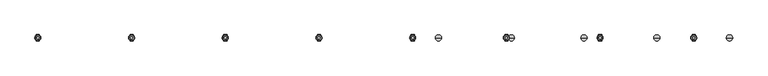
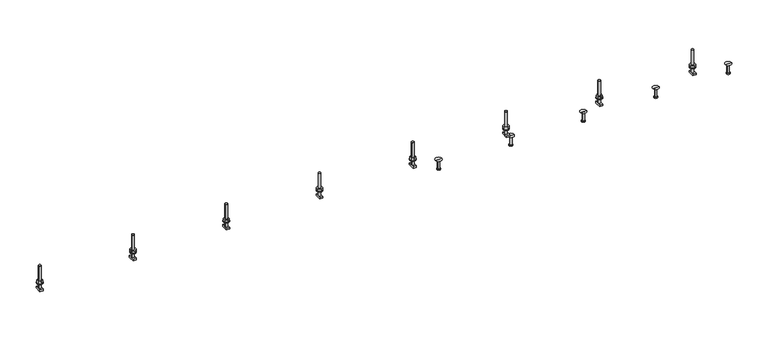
"""IFC4 building model written with IfcOpenShell, lengths in millimetres: fastener geometry, JTA-K JORDAHL® AnchorChannels : JTA-K L=3000 mm."""

from ifc_helpers import new_model, si_unit, point, frame, frame_2d, origin, place, context, project, spatial, polyline, circle_curve, trimmed, segment, composite_curve, outline, extrude, source, transform, mapped, element, save
from ifc_brep_helpers import plane_surface, cylinder_surface, revolved_surface, advanced_brep


def fastener_f9462707(model_context):
    return source(origin(), model_context, "Body", "SolidModel", [
        extrude(outline(polyline([(2608.3333333, 9.2376043), (2616.3333333, 4.6188022), (2616.3333333, -4.6188022), (2608.3333333, -9.2376043), (2600.3333333, -4.6188022), (2600.3333333, 4.6188022), (2608.3333333, 9.2376043)]), holes=[composite_curve([segment(trimmed(circle_curve(frame_2d((2608.3333333, 0.0)), 4.0), [point((2604.3333333, 0.0))], [point((2612.3333333, 0.0))], True, "CARTESIAN"), True, "CONTINUOUS"), segment(trimmed(circle_curve(frame_2d((2608.3333333, 0.0)), 4.0), [point((2612.3333333, 0.0))], [point((2604.3333333, 0.0))], True, "CARTESIAN"), True, "CONTINUOUS")], self_intersect=False)]), frame((0.0, 0.0, 17.0), z_axis=(0.0, 0.0, 1.0), x_axis=(1.0, 0.0, 0.0)), (0.0, 0.0, 1.0), 8.4),
        extrude(outline(composite_curve([segment(trimmed(circle_curve(frame_2d((2608.3333333, 0.0)), 10.0), [point((2598.3333333, 0.0))], [point((2618.3333333, 0.0))], False, "CARTESIAN"), True, "CONTINUOUS"), segment(trimmed(circle_curve(frame_2d((2608.3333333, 0.0)), 10.0), [point((2618.3333333, 0.0))], [point((2598.3333333, 0.0))], False, "CARTESIAN"), True, "CONTINUOUS")], self_intersect=False), holes=[composite_curve([segment(trimmed(circle_curve(frame_2d((2608.3333333, 0.0)), 5.25), [point((2603.0833333, 0.0))], [point((2613.5833333, 0.0))], True, "CARTESIAN"), True, "CONTINUOUS"), segment(trimmed(circle_curve(frame_2d((2608.3333333, 0.0)), 5.25), [point((2613.5833333, 0.0))], [point((2603.0833333, 0.0))], True, "CARTESIAN"), True, "CONTINUOUS")], self_intersect=False)]), frame((0.0, 0.0, 15.0), z_axis=(0.0, 0.0, 1.0), x_axis=(1.0, 0.0, 0.0)), (0.0, 0.0, 1.0), 2.0),
        extrude(outline(polyline([(2291.6666667, 9.2376043), (2299.6666667, 4.6188022), (2299.6666667, -4.6188022), (2291.6666667, -9.2376043), (2283.6666667, -4.6188022), (2283.6666667, 4.6188022), (2291.6666667, 9.2376043)]), holes=[composite_curve([segment(trimmed(circle_curve(frame_2d((2291.6666667, 0.0)), 4.0), [point((2287.6666667, 0.0))], [point((2295.6666667, 0.0))], True, "CARTESIAN"), True, "CONTINUOUS"), segment(trimmed(circle_curve(frame_2d((2291.6666667, 0.0)), 4.0), [point((2295.6666667, 0.0))], [point((2287.6666667, 0.0))], True, "CARTESIAN"), True, "CONTINUOUS")], self_intersect=False)]), frame((0.0, 0.0, 17.0), z_axis=(0.0, 0.0, 1.0), x_axis=(1.0, 0.0, 0.0)), (0.0, 0.0, 1.0), 8.4),
        extrude(outline(composite_curve([segment(trimmed(circle_curve(frame_2d((2291.6666667, 0.0)), 10.0), [point((2281.6666667, 0.0))], [point((2301.6666667, 0.0))], False, "CARTESIAN"), True, "CONTINUOUS"), segment(trimmed(circle_curve(frame_2d((2291.6666667, 0.0)), 10.0), [point((2301.6666667, 0.0))], [point((2281.6666667, 0.0))], False, "CARTESIAN"), True, "CONTINUOUS")], self_intersect=False), holes=[composite_curve([segment(trimmed(circle_curve(frame_2d((2291.6666667, 0.0)), 5.25), [point((2286.4166667, 0.0))], [point((2296.9166667, 0.0))], True, "CARTESIAN"), True, "CONTINUOUS"), segment(trimmed(circle_curve(frame_2d((2291.6666667, 0.0)), 5.25), [point((2296.9166667, 0.0))], [point((2286.4166667, 0.0))], True, "CARTESIAN"), True, "CONTINUOUS")], self_intersect=False)]), frame((0.0, 0.0, 15.0), z_axis=(0.0, 0.0, 1.0), x_axis=(1.0, 0.0, 0.0)), (0.0, 0.0, 1.0), 2.0),
        extrude(outline(polyline([(1975.0, 9.2376043), (1983.0, 4.6188022), (1983.0, -4.6188022), (1975.0, -9.2376043), (1967.0, -4.6188022), (1967.0, 4.6188022), (1975.0, 9.2376043)]), holes=[composite_curve([segment(trimmed(circle_curve(frame_2d((1975.0, 0.0)), 4.0), [point((1971.0, 0.0))], [point((1979.0, 0.0))], True, "CARTESIAN"), True, "CONTINUOUS"), segment(trimmed(circle_curve(frame_2d((1975.0, 0.0)), 4.0), [point((1979.0, 0.0))], [point((1971.0, 0.0))], True, "CARTESIAN"), True, "CONTINUOUS")], self_intersect=False)]), frame((0.0, 0.0, 17.0), z_axis=(0.0, 0.0, 1.0), x_axis=(1.0, 0.0, 0.0)), (0.0, 0.0, 1.0), 8.4),
        extrude(outline(composite_curve([segment(trimmed(circle_curve(frame_2d((1975.0, 0.0)), 10.0), [point((1965.0, 0.0))], [point((1985.0, 0.0))], False, "CARTESIAN"), True, "CONTINUOUS"), segment(trimmed(circle_curve(frame_2d((1975.0, 0.0)), 10.0), [point((1985.0, 0.0))], [point((1965.0, 0.0))], False, "CARTESIAN"), True, "CONTINUOUS")], self_intersect=False), holes=[composite_curve([segment(trimmed(circle_curve(frame_2d((1975.0, 0.0)), 5.25), [point((1969.75, 0.0))], [point((1980.25, 0.0))], True, "CARTESIAN"), True, "CONTINUOUS"), segment(trimmed(circle_curve(frame_2d((1975.0, 0.0)), 5.25), [point((1980.25, 0.0))], [point((1969.75, 0.0))], True, "CARTESIAN"), True, "CONTINUOUS")], self_intersect=False)]), frame((0.0, 0.0, 15.0), z_axis=(0.0, 0.0, 1.0), x_axis=(1.0, 0.0, 0.0)), (0.0, 0.0, 1.0), 2.0),
        extrude(outline(polyline([(1658.3333333, 9.2376043), (1666.3333333, 4.6188022), (1666.3333333, -4.6188022), (1658.3333333, -9.2376043), (1650.3333333, -4.6188022), (1650.3333333, 4.6188022), (1658.3333333, 9.2376043)]), holes=[composite_curve([segment(trimmed(circle_curve(frame_2d((1658.3333333, 0.0)), 4.0), [point((1654.3333333, 0.0))], [point((1662.3333333, 0.0))], True, "CARTESIAN"), True, "CONTINUOUS"), segment(trimmed(circle_curve(frame_2d((1658.3333333, 0.0)), 4.0), [point((1662.3333333, 0.0))], [point((1654.3333333, 0.0))], True, "CARTESIAN"), True, "CONTINUOUS")], self_intersect=False)]), frame((0.0, 0.0, 17.0), z_axis=(0.0, 0.0, 1.0), x_axis=(1.0, 0.0, 0.0)), (0.0, 0.0, 1.0), 8.4),
        extrude(outline(composite_curve([segment(trimmed(circle_curve(frame_2d((1658.3333333, 0.0)), 10.0), [point((1648.3333333, 0.0))], [point((1668.3333333, 0.0))], False, "CARTESIAN"), True, "CONTINUOUS"), segment(trimmed(circle_curve(frame_2d((1658.3333333, 0.0)), 10.0), [point((1668.3333333, 0.0))], [point((1648.3333333, 0.0))], False, "CARTESIAN"), True, "CONTINUOUS")], self_intersect=False), holes=[composite_curve([segment(trimmed(circle_curve(frame_2d((1658.3333333, 0.0)), 5.25), [point((1653.0833333, 0.0))], [point((1663.5833333, 0.0))], True, "CARTESIAN"), True, "CONTINUOUS"), segment(trimmed(circle_curve(frame_2d((1658.3333333, 0.0)), 5.25), [point((1663.5833333, 0.0))], [point((1653.0833333, 0.0))], True, "CARTESIAN"), True, "CONTINUOUS")], self_intersect=False)]), frame((0.0, 0.0, 15.0), z_axis=(0.0, 0.0, 1.0), x_axis=(1.0, 0.0, 0.0)), (0.0, 0.0, 1.0), 2.0),
        extrude(outline(polyline([(1341.6666667, 9.2376043), (1349.6666667, 4.6188022), (1349.6666667, -4.6188022), (1341.6666667, -9.2376043), (1333.6666667, -4.6188022), (1333.6666667, 4.6188022), (1341.6666667, 9.2376043)]), holes=[composite_curve([segment(trimmed(circle_curve(frame_2d((1341.6666667, 0.0)), 4.0), [point((1337.6666667, 0.0))], [point((1345.6666667, 0.0))], True, "CARTESIAN"), True, "CONTINUOUS"), segment(trimmed(circle_curve(frame_2d((1341.6666667, 0.0)), 4.0), [point((1345.6666667, 0.0))], [point((1337.6666667, 0.0))], True, "CARTESIAN"), True, "CONTINUOUS")], self_intersect=False)]), frame((0.0, 0.0, 17.0), z_axis=(0.0, 0.0, 1.0), x_axis=(1.0, 0.0, 0.0)), (0.0, 0.0, 1.0), 8.4),
        extrude(outline(composite_curve([segment(trimmed(circle_curve(frame_2d((1341.6666667, 0.0)), 10.0), [point((1331.6666667, 0.0))], [point((1351.6666667, 0.0))], False, "CARTESIAN"), True, "CONTINUOUS"), segment(trimmed(circle_curve(frame_2d((1341.6666667, 0.0)), 10.0), [point((1351.6666667, 0.0))], [point((1331.6666667, 0.0))], False, "CARTESIAN"), True, "CONTINUOUS")], self_intersect=False), holes=[composite_curve([segment(trimmed(circle_curve(frame_2d((1341.6666667, 0.0)), 5.25), [point((1336.4166667, 0.0))], [point((1346.9166667, 0.0))], True, "CARTESIAN"), True, "CONTINUOUS"), segment(trimmed(circle_curve(frame_2d((1341.6666667, 0.0)), 5.25), [point((1346.9166667, 0.0))], [point((1336.4166667, 0.0))], True, "CARTESIAN"), True, "CONTINUOUS")], self_intersect=False)]), frame((0.0, 0.0, 15.0), z_axis=(0.0, 0.0, 1.0), x_axis=(1.0, 0.0, 0.0)), (0.0, 0.0, 1.0), 2.0),
        extrude(outline(polyline([(1025.0, 9.2376043), (1033.0, 4.6188022), (1033.0, -4.6188022), (1025.0, -9.2376043), (1017.0, -4.6188022), (1017.0, 4.6188022), (1025.0, 9.2376043)]), holes=[composite_curve([segment(trimmed(circle_curve(frame_2d((1025.0, 0.0)), 4.0), [point((1021.0, 0.0))], [point((1029.0, 0.0))], True, "CARTESIAN"), True, "CONTINUOUS"), segment(trimmed(circle_curve(frame_2d((1025.0, 0.0)), 4.0), [point((1029.0, 0.0))], [point((1021.0, 0.0))], True, "CARTESIAN"), True, "CONTINUOUS")], self_intersect=False)]), frame((0.0, 0.0, 17.0), z_axis=(0.0, 0.0, 1.0), x_axis=(1.0, 0.0, 0.0)), (0.0, 0.0, 1.0), 8.4),
        extrude(outline(composite_curve([segment(trimmed(circle_curve(frame_2d((1025.0, 0.0)), 10.0), [point((1015.0, 0.0))], [point((1035.0, 0.0))], False, "CARTESIAN"), True, "CONTINUOUS"), segment(trimmed(circle_curve(frame_2d((1025.0, 0.0)), 10.0), [point((1035.0, 0.0))], [point((1015.0, 0.0))], False, "CARTESIAN"), True, "CONTINUOUS")], self_intersect=False), holes=[composite_curve([segment(trimmed(circle_curve(frame_2d((1025.0, 0.0)), 5.25), [point((1019.75, 0.0))], [point((1030.25, 0.0))], True, "CARTESIAN"), True, "CONTINUOUS"), segment(trimmed(circle_curve(frame_2d((1025.0, 0.0)), 5.25), [point((1030.25, 0.0))], [point((1019.75, 0.0))], True, "CARTESIAN"), True, "CONTINUOUS")], self_intersect=False)]), frame((0.0, 0.0, 15.0), z_axis=(0.0, 0.0, 1.0), x_axis=(1.0, 0.0, 0.0)), (0.0, 0.0, 1.0), 2.0),
        extrude(outline(polyline([(708.3333333, 9.2376043), (716.3333333, 4.6188022), (716.3333333, -4.6188022), (708.3333333, -9.2376043), (700.3333333, -4.6188022), (700.3333333, 4.6188022), (708.3333333, 9.2376043)]), holes=[composite_curve([segment(trimmed(circle_curve(frame_2d((708.3333333, 0.0)), 4.0), [point((704.3333333, 0.0))], [point((712.3333333, 0.0))], True, "CARTESIAN"), True, "CONTINUOUS"), segment(trimmed(circle_curve(frame_2d((708.3333333, 0.0)), 4.0), [point((712.3333333, 0.0))], [point((704.3333333, 0.0))], True, "CARTESIAN"), True, "CONTINUOUS")], self_intersect=False)]), frame((0.0, 0.0, 17.0), z_axis=(0.0, 0.0, 1.0), x_axis=(1.0, 0.0, 0.0)), (0.0, 0.0, 1.0), 8.4),
        extrude(outline(composite_curve([segment(trimmed(circle_curve(frame_2d((708.3333333, 0.0)), 10.0), [point((698.3333333, 0.0))], [point((718.3333333, 0.0))], False, "CARTESIAN"), True, "CONTINUOUS"), segment(trimmed(circle_curve(frame_2d((708.3333333, 0.0)), 10.0), [point((718.3333333, 0.0))], [point((698.3333333, 0.0))], False, "CARTESIAN"), True, "CONTINUOUS")], self_intersect=False), holes=[composite_curve([segment(trimmed(circle_curve(frame_2d((708.3333333, 0.0)), 5.25), [point((703.0833333, 0.0))], [point((713.5833333, 0.0))], True, "CARTESIAN"), True, "CONTINUOUS"), segment(trimmed(circle_curve(frame_2d((708.3333333, 0.0)), 5.25), [point((713.5833333, 0.0))], [point((703.0833333, 0.0))], True, "CARTESIAN"), True, "CONTINUOUS")], self_intersect=False)]), frame((0.0, 0.0, 15.0), z_axis=(0.0, 0.0, 1.0), x_axis=(1.0, 0.0, 0.0)), (0.0, 0.0, 1.0), 2.0),
        extrude(outline(polyline([(391.6666667, 9.2376043), (399.6666667, 4.6188022), (399.6666667, -4.6188022), (391.6666667, -9.2376043), (383.6666667, -4.6188022), (383.6666667, 4.6188022), (391.6666667, 9.2376043)]), holes=[composite_curve([segment(trimmed(circle_curve(frame_2d((391.6666667, 0.0)), 4.0), [point((387.6666667, 0.0))], [point((395.6666667, 0.0))], True, "CARTESIAN"), True, "CONTINUOUS"), segment(trimmed(circle_curve(frame_2d((391.6666667, 0.0)), 4.0), [point((395.6666667, 0.0))], [point((387.6666667, 0.0))], True, "CARTESIAN"), True, "CONTINUOUS")], self_intersect=False)]), frame((0.0, 0.0, 17.0), z_axis=(0.0, 0.0, 1.0), x_axis=(1.0, 0.0, 0.0)), (0.0, 0.0, 1.0), 8.4),
        extrude(outline(composite_curve([segment(trimmed(circle_curve(frame_2d((391.6666667, 0.0)), 10.0), [point((381.6666667, 0.0))], [point((401.6666667, 0.0))], False, "CARTESIAN"), True, "CONTINUOUS"), segment(trimmed(circle_curve(frame_2d((391.6666667, 0.0)), 10.0), [point((401.6666667, 0.0))], [point((381.6666667, 0.0))], False, "CARTESIAN"), True, "CONTINUOUS")], self_intersect=False), holes=[composite_curve([segment(trimmed(circle_curve(frame_2d((391.6666667, 0.0)), 5.25), [point((386.4166667, 0.0))], [point((396.9166667, 0.0))], True, "CARTESIAN"), True, "CONTINUOUS"), segment(trimmed(circle_curve(frame_2d((391.6666667, 0.0)), 5.25), [point((396.9166667, 0.0))], [point((386.4166667, 0.0))], True, "CARTESIAN"), True, "CONTINUOUS")], self_intersect=False)]), frame((0.0, 0.0, 15.0), z_axis=(0.0, 0.0, 1.0), x_axis=(1.0, 0.0, 0.0)), (0.0, 0.0, 1.0), 2.0),
        advanced_brep(
        [(2613.8333333, 11.0, -2.3), (2613.8333333, -11.0, -2.3), (2613.8333333, -11.0, -8.3), (2613.8333333, 11.0, -8.3), (2602.8333333, 11.0, -2.3), (2602.8333333, 11.0, -8.3), (2602.8333333, -11.0, -8.3), (2602.8333333, -11.0, -2.3), (2612.3333333, 0.0, -2.3), (2604.3333333, 0.0, -2.3), (2604.3333333, 0.0, 77.7), (2612.3333333, 0.0, 77.7)],
        [
            (0, 1),
            (1, 2),
            (2, 3),
            (3, 0),
            (4, 5),
            (5, 6),
            (6, 7),
            (7, 4),
            (0, 4),
            (7, 1),
            (8, 9, circle_curve(frame((2608.3333333, 0.0, -2.3), z_axis=(0.0, 0.0, -1.0), x_axis=(1.0, 0.0, 0.0)), 4.0)),
            (9, 8, circle_curve(frame((2608.3333333, 0.0, -2.3), z_axis=(0.0, 0.0, -1.0), x_axis=(1.0, 0.0, 0.0)), 4.0)),
            (6, 2),
            (5, 3),
            (10, 11, circle_curve(frame((2608.3333333, 0.0, 77.7), z_axis=(0.0, 0.0, 1.0), x_axis=(1.0, 0.0, 0.0)), 4.0)),
            (11, 10, circle_curve(frame((2608.3333333, 0.0, 77.7), z_axis=(0.0, 0.0, 1.0), x_axis=(1.0, 0.0, 0.0)), 4.0)),
            (10, 9),
            (8, 11),
        ],
        [
            plane_surface(frame((2613.8333333, -11.0, -2.3), z_axis=(1.0, 0.0, 0.0), x_axis=(0.0, -1.0, 0.0))),
            plane_surface(frame((2602.8333333, -11.0, -2.3), z_axis=(-1.0, 0.0, 0.0), x_axis=(0.0, 1.0, 0.0))),
            plane_surface(frame((2613.8333333, 11.0, -2.3), z_axis=(0.0, 0.0, 1.0), x_axis=(-1.0, 0.0, 0.0))),
            plane_surface(frame((2613.8333333, -11.0, -2.3), z_axis=(0.0, -1.0, 0.0), x_axis=(-1.0, 0.0, 0.0))),
            plane_surface(frame((2613.8333333, -11.0, -8.3), z_axis=(0.0, 0.0, -1.0), x_axis=(-1.0, 0.0, 0.0))),
            plane_surface(frame((2613.8333333, 11.0, -8.3), z_axis=(0.0, 1.0, 0.0), x_axis=(-1.0, 0.0, 0.0))),
            plane_surface(frame((2612.3333333, 0.0, 77.7), z_axis=(0.0, 0.0, 1.0), x_axis=(0.0, 1.0, 0.0))),
            cylinder_surface(frame((2608.3333333, 0.0, -2.3), z_axis=(0.0, 0.0, 1.0), x_axis=(1.0, 0.0, 0.0)), 4.0),
        ],
        [
            (0, [[1, 2, 3, 4]]),
            (1, [[5, 6, 7, 8]]),
            (2, [[-1, 9, -8, 10], [11, 12]]),
            (3, [[-2, -10, -7, 13]]),
            (4, [[-3, -13, -6, 14]]),
            (5, [[-4, -14, -5, -9]]),
            (6, [[15, 16]]),
            (7, [[-15, 17, -11, 18]]),
            (7, [[-16, -18, -12, -17]]),
        ],
    ),
        advanced_brep(
        [(2297.1666667, 11.0, -2.3), (2297.1666667, -11.0, -2.3), (2297.1666667, -11.0, -8.3), (2297.1666667, 11.0, -8.3), (2286.1666667, 11.0, -2.3), (2286.1666667, 11.0, -8.3), (2286.1666667, -11.0, -8.3), (2286.1666667, -11.0, -2.3), (2295.6666667, 0.0, -2.3), (2287.6666667, 0.0, -2.3), (2287.6666667, 0.0, 77.7), (2295.6666667, 0.0, 77.7)],
        [
            (0, 1),
            (1, 2),
            (2, 3),
            (3, 0),
            (4, 5),
            (5, 6),
            (6, 7),
            (7, 4),
            (0, 4),
            (7, 1),
            (8, 9, circle_curve(frame((2291.6666667, 0.0, -2.3), z_axis=(0.0, 0.0, -1.0), x_axis=(1.0, 0.0, 0.0)), 4.0)),
            (9, 8, circle_curve(frame((2291.6666667, 0.0, -2.3), z_axis=(0.0, 0.0, -1.0), x_axis=(1.0, 0.0, 0.0)), 4.0)),
            (6, 2),
            (5, 3),
            (10, 11, circle_curve(frame((2291.6666667, 0.0, 77.7), z_axis=(0.0, 0.0, 1.0), x_axis=(1.0, 0.0, 0.0)), 4.0)),
            (11, 10, circle_curve(frame((2291.6666667, 0.0, 77.7), z_axis=(0.0, 0.0, 1.0), x_axis=(1.0, 0.0, 0.0)), 4.0)),
            (10, 9),
            (8, 11),
        ],
        [
            plane_surface(frame((2297.1666667, -11.0, -2.3), z_axis=(1.0, 0.0, 0.0), x_axis=(0.0, -1.0, 0.0))),
            plane_surface(frame((2286.1666667, -11.0, -2.3), z_axis=(-1.0, 0.0, 0.0), x_axis=(0.0, 1.0, 0.0))),
            plane_surface(frame((2297.1666667, 11.0, -2.3), z_axis=(0.0, 0.0, 1.0), x_axis=(-1.0, 0.0, 0.0))),
            plane_surface(frame((2297.1666667, -11.0, -2.3), z_axis=(0.0, -1.0, 0.0), x_axis=(-1.0, 0.0, 0.0))),
            plane_surface(frame((2297.1666667, -11.0, -8.3), z_axis=(0.0, 0.0, -1.0), x_axis=(-1.0, 0.0, 0.0))),
            plane_surface(frame((2297.1666667, 11.0, -8.3), z_axis=(0.0, 1.0, 0.0), x_axis=(-1.0, 0.0, 0.0))),
            plane_surface(frame((2295.6666667, 0.0, 77.7), z_axis=(0.0, 0.0, 1.0), x_axis=(0.0, 1.0, 0.0))),
            cylinder_surface(frame((2291.6666667, 0.0, -2.3), z_axis=(0.0, 0.0, 1.0), x_axis=(1.0, 0.0, 0.0)), 4.0),
        ],
        [
            (0, [[1, 2, 3, 4]]),
            (1, [[5, 6, 7, 8]]),
            (2, [[-1, 9, -8, 10], [11, 12]]),
            (3, [[-2, -10, -7, 13]]),
            (4, [[-3, -13, -6, 14]]),
            (5, [[-4, -14, -5, -9]]),
            (6, [[15, 16]]),
            (7, [[-15, 17, -11, 18]]),
            (7, [[-16, -18, -12, -17]]),
        ],
    ),
        advanced_brep(
        [(1980.5, 11.0, -2.3), (1980.5, -11.0, -2.3), (1980.5, -11.0, -8.3), (1980.5, 11.0, -8.3), (1969.5, 11.0, -2.3), (1969.5, 11.0, -8.3), (1969.5, -11.0, -8.3), (1969.5, -11.0, -2.3), (1979.0, 0.0, -2.3), (1971.0, 0.0, -2.3), (1971.0, 0.0, 77.7), (1979.0, 0.0, 77.7)],
        [
            (0, 1),
            (1, 2),
            (2, 3),
            (3, 0),
            (4, 5),
            (5, 6),
            (6, 7),
            (7, 4),
            (0, 4),
            (7, 1),
            (8, 9, circle_curve(frame((1975.0, 0.0, -2.3), z_axis=(0.0, 0.0, -1.0), x_axis=(1.0, 0.0, 0.0)), 4.0)),
            (9, 8, circle_curve(frame((1975.0, 0.0, -2.3), z_axis=(0.0, 0.0, -1.0), x_axis=(1.0, 0.0, 0.0)), 4.0)),
            (6, 2),
            (5, 3),
            (10, 11, circle_curve(frame((1975.0, 0.0, 77.7), z_axis=(0.0, 0.0, 1.0), x_axis=(1.0, 0.0, 0.0)), 4.0)),
            (11, 10, circle_curve(frame((1975.0, 0.0, 77.7), z_axis=(0.0, 0.0, 1.0), x_axis=(1.0, 0.0, 0.0)), 4.0)),
            (10, 9),
            (8, 11),
        ],
        [
            plane_surface(frame((1980.5, -11.0, -2.3), z_axis=(1.0, 0.0, 0.0), x_axis=(0.0, -1.0, 0.0))),
            plane_surface(frame((1969.5, -11.0, -2.3), z_axis=(-1.0, 0.0, 0.0), x_axis=(0.0, 1.0, 0.0))),
            plane_surface(frame((1980.5, 11.0, -2.3), z_axis=(0.0, 0.0, 1.0), x_axis=(-1.0, 0.0, 0.0))),
            plane_surface(frame((1980.5, -11.0, -2.3), z_axis=(0.0, -1.0, 0.0), x_axis=(-1.0, 0.0, 0.0))),
            plane_surface(frame((1980.5, -11.0, -8.3), z_axis=(0.0, 0.0, -1.0), x_axis=(-1.0, 0.0, 0.0))),
            plane_surface(frame((1980.5, 11.0, -8.3), z_axis=(0.0, 1.0, 0.0), x_axis=(-1.0, 0.0, 0.0))),
            plane_surface(frame((1979.0, 0.0, 77.7), z_axis=(0.0, 0.0, 1.0), x_axis=(0.0, 1.0, 0.0))),
            cylinder_surface(frame((1975.0, 0.0, -2.3), z_axis=(0.0, 0.0, 1.0), x_axis=(1.0, 0.0, 0.0)), 4.0),
        ],
        [
            (0, [[1, 2, 3, 4]]),
            (1, [[5, 6, 7, 8]]),
            (2, [[-1, 9, -8, 10], [11, 12]]),
            (3, [[-2, -10, -7, 13]]),
            (4, [[-3, -13, -6, 14]]),
            (5, [[-4, -14, -5, -9]]),
            (6, [[15, 16]]),
            (7, [[-15, 17, -11, 18]]),
            (7, [[-16, -18, -12, -17]]),
        ],
    ),
        advanced_brep(
        [(1663.8333333, 11.0, -2.3), (1663.8333333, -11.0, -2.3), (1663.8333333, -11.0, -8.3), (1663.8333333, 11.0, -8.3), (1652.8333333, 11.0, -2.3), (1652.8333333, 11.0, -8.3), (1652.8333333, -11.0, -8.3), (1652.8333333, -11.0, -2.3), (1662.3333333, 0.0, -2.3), (1654.3333333, 0.0, -2.3), (1654.3333333, 0.0, 77.7), (1662.3333333, 0.0, 77.7)],
        [
            (0, 1),
            (1, 2),
            (2, 3),
            (3, 0),
            (4, 5),
            (5, 6),
            (6, 7),
            (7, 4),
            (0, 4),
            (7, 1),
            (8, 9, circle_curve(frame((1658.3333333, 0.0, -2.3), z_axis=(0.0, 0.0, -1.0), x_axis=(1.0, 0.0, 0.0)), 4.0)),
            (9, 8, circle_curve(frame((1658.3333333, 0.0, -2.3), z_axis=(0.0, 0.0, -1.0), x_axis=(1.0, 0.0, 0.0)), 4.0)),
            (6, 2),
            (5, 3),
            (10, 11, circle_curve(frame((1658.3333333, 0.0, 77.7), z_axis=(0.0, 0.0, 1.0), x_axis=(1.0, 0.0, 0.0)), 4.0)),
            (11, 10, circle_curve(frame((1658.3333333, 0.0, 77.7), z_axis=(0.0, 0.0, 1.0), x_axis=(1.0, 0.0, 0.0)), 4.0)),
            (10, 9),
            (8, 11),
        ],
        [
            plane_surface(frame((1663.8333333, -11.0, -2.3), z_axis=(1.0, 0.0, 0.0), x_axis=(0.0, -1.0, 0.0))),
            plane_surface(frame((1652.8333333, -11.0, -2.3), z_axis=(-1.0, 0.0, 0.0), x_axis=(0.0, 1.0, 0.0))),
            plane_surface(frame((1663.8333333, 11.0, -2.3), z_axis=(0.0, 0.0, 1.0), x_axis=(-1.0, 0.0, 0.0))),
            plane_surface(frame((1663.8333333, -11.0, -2.3), z_axis=(0.0, -1.0, 0.0), x_axis=(-1.0, 0.0, 0.0))),
            plane_surface(frame((1663.8333333, -11.0, -8.3), z_axis=(0.0, 0.0, -1.0), x_axis=(-1.0, 0.0, 0.0))),
            plane_surface(frame((1663.8333333, 11.0, -8.3), z_axis=(0.0, 1.0, 0.0), x_axis=(-1.0, 0.0, 0.0))),
            plane_surface(frame((1662.3333333, 0.0, 77.7), z_axis=(0.0, 0.0, 1.0), x_axis=(0.0, 1.0, 0.0))),
            cylinder_surface(frame((1658.3333333, 0.0, -2.3), z_axis=(0.0, 0.0, 1.0), x_axis=(1.0, 0.0, 0.0)), 4.0),
        ],
        [
            (0, [[1, 2, 3, 4]]),
            (1, [[5, 6, 7, 8]]),
            (2, [[-1, 9, -8, 10], [11, 12]]),
            (3, [[-2, -10, -7, 13]]),
            (4, [[-3, -13, -6, 14]]),
            (5, [[-4, -14, -5, -9]]),
            (6, [[15, 16]]),
            (7, [[-15, 17, -11, 18]]),
            (7, [[-16, -18, -12, -17]]),
        ],
    ),
        advanced_brep(
        [(1347.1666667, 11.0, -2.3), (1347.1666667, -11.0, -2.3), (1347.1666667, -11.0, -8.3), (1347.1666667, 11.0, -8.3), (1336.1666667, 11.0, -2.3), (1336.1666667, 11.0, -8.3), (1336.1666667, -11.0, -8.3), (1336.1666667, -11.0, -2.3), (1345.6666667, 0.0, -2.3), (1337.6666667, 0.0, -2.3), (1337.6666667, 0.0, 77.7), (1345.6666667, 0.0, 77.7)],
        [
            (0, 1),
            (1, 2),
            (2, 3),
            (3, 0),
            (4, 5),
            (5, 6),
            (6, 7),
            (7, 4),
            (0, 4),
            (7, 1),
            (8, 9, circle_curve(frame((1341.6666667, 0.0, -2.3), z_axis=(0.0, 0.0, -1.0), x_axis=(1.0, 0.0, 0.0)), 4.0)),
            (9, 8, circle_curve(frame((1341.6666667, 0.0, -2.3), z_axis=(0.0, 0.0, -1.0), x_axis=(1.0, 0.0, 0.0)), 4.0)),
            (6, 2),
            (5, 3),
            (10, 11, circle_curve(frame((1341.6666667, 0.0, 77.7), z_axis=(0.0, 0.0, 1.0), x_axis=(1.0, 0.0, 0.0)), 4.0)),
            (11, 10, circle_curve(frame((1341.6666667, 0.0, 77.7), z_axis=(0.0, 0.0, 1.0), x_axis=(1.0, 0.0, 0.0)), 4.0)),
            (10, 9),
            (8, 11),
        ],
        [
            plane_surface(frame((1347.1666667, -11.0, -2.3), z_axis=(1.0, 0.0, 0.0), x_axis=(0.0, -1.0, 0.0))),
            plane_surface(frame((1336.1666667, -11.0, -2.3), z_axis=(-1.0, 0.0, 0.0), x_axis=(0.0, 1.0, 0.0))),
            plane_surface(frame((1347.1666667, 11.0, -2.3), z_axis=(0.0, 0.0, 1.0), x_axis=(-1.0, 0.0, 0.0))),
            plane_surface(frame((1347.1666667, -11.0, -2.3), z_axis=(0.0, -1.0, 0.0), x_axis=(-1.0, 0.0, 0.0))),
            plane_surface(frame((1347.1666667, -11.0, -8.3), z_axis=(0.0, 0.0, -1.0), x_axis=(-1.0, 0.0, 0.0))),
            plane_surface(frame((1347.1666667, 11.0, -8.3), z_axis=(0.0, 1.0, 0.0), x_axis=(-1.0, 0.0, 0.0))),
            plane_surface(frame((1345.6666667, 0.0, 77.7), z_axis=(0.0, 0.0, 1.0), x_axis=(0.0, 1.0, 0.0))),
            cylinder_surface(frame((1341.6666667, 0.0, -2.3), z_axis=(0.0, 0.0, 1.0), x_axis=(1.0, 0.0, 0.0)), 4.0),
        ],
        [
            (0, [[1, 2, 3, 4]]),
            (1, [[5, 6, 7, 8]]),
            (2, [[-1, 9, -8, 10], [11, 12]]),
            (3, [[-2, -10, -7, 13]]),
            (4, [[-3, -13, -6, 14]]),
            (5, [[-4, -14, -5, -9]]),
            (6, [[15, 16]]),
            (7, [[-15, 17, -11, 18]]),
            (7, [[-16, -18, -12, -17]]),
        ],
    ),
        advanced_brep(
        [(1030.5, 11.0, -2.3), (1030.5, -11.0, -2.3), (1030.5, -11.0, -8.3), (1030.5, 11.0, -8.3), (1019.5, 11.0, -2.3), (1019.5, 11.0, -8.3), (1019.5, -11.0, -8.3), (1019.5, -11.0, -2.3), (1029.0, 0.0, -2.3), (1021.0, 0.0, -2.3), (1021.0, 0.0, 77.7), (1029.0, 0.0, 77.7)],
        [
            (0, 1),
            (1, 2),
            (2, 3),
            (3, 0),
            (4, 5),
            (5, 6),
            (6, 7),
            (7, 4),
            (0, 4),
            (7, 1),
            (8, 9, circle_curve(frame((1025.0, 0.0, -2.3), z_axis=(0.0, 0.0, -1.0), x_axis=(1.0, 0.0, 0.0)), 4.0)),
            (9, 8, circle_curve(frame((1025.0, 0.0, -2.3), z_axis=(0.0, 0.0, -1.0), x_axis=(1.0, 0.0, 0.0)), 4.0)),
            (6, 2),
            (5, 3),
            (10, 11, circle_curve(frame((1025.0, 0.0, 77.7), z_axis=(0.0, 0.0, 1.0), x_axis=(1.0, 0.0, 0.0)), 4.0)),
            (11, 10, circle_curve(frame((1025.0, 0.0, 77.7), z_axis=(0.0, 0.0, 1.0), x_axis=(1.0, 0.0, 0.0)), 4.0)),
            (10, 9),
            (8, 11),
        ],
        [
            plane_surface(frame((1030.5, -11.0, -2.3), z_axis=(1.0, 0.0, 0.0), x_axis=(0.0, -1.0, 0.0))),
            plane_surface(frame((1019.5, -11.0, -2.3), z_axis=(-1.0, 0.0, 0.0), x_axis=(0.0, 1.0, 0.0))),
            plane_surface(frame((1030.5, 11.0, -2.3), z_axis=(0.0, 0.0, 1.0), x_axis=(-1.0, 0.0, 0.0))),
            plane_surface(frame((1030.5, -11.0, -2.3), z_axis=(0.0, -1.0, 0.0), x_axis=(-1.0, 0.0, 0.0))),
            plane_surface(frame((1030.5, -11.0, -8.3), z_axis=(0.0, 0.0, -1.0), x_axis=(-1.0, 0.0, 0.0))),
            plane_surface(frame((1030.5, 11.0, -8.3), z_axis=(0.0, 1.0, 0.0), x_axis=(-1.0, 0.0, 0.0))),
            plane_surface(frame((1029.0, 0.0, 77.7), z_axis=(0.0, 0.0, 1.0), x_axis=(0.0, 1.0, 0.0))),
            cylinder_surface(frame((1025.0, 0.0, -2.3), z_axis=(0.0, 0.0, 1.0), x_axis=(1.0, 0.0, 0.0)), 4.0),
        ],
        [
            (0, [[1, 2, 3, 4]]),
            (1, [[5, 6, 7, 8]]),
            (2, [[-1, 9, -8, 10], [11, 12]]),
            (3, [[-2, -10, -7, 13]]),
            (4, [[-3, -13, -6, 14]]),
            (5, [[-4, -14, -5, -9]]),
            (6, [[15, 16]]),
            (7, [[-15, 17, -11, 18]]),
            (7, [[-16, -18, -12, -17]]),
        ],
    ),
        advanced_brep(
        [(713.8333333, 11.0, -2.3), (713.8333333, -11.0, -2.3), (713.8333333, -11.0, -8.3), (713.8333333, 11.0, -8.3), (702.8333333, 11.0, -2.3), (702.8333333, 11.0, -8.3), (702.8333333, -11.0, -8.3), (702.8333333, -11.0, -2.3), (712.3333333, 0.0, -2.3), (704.3333333, 0.0, -2.3), (704.3333333, 0.0, 77.7), (712.3333333, 0.0, 77.7)],
        [
            (0, 1),
            (1, 2),
            (2, 3),
            (3, 0),
            (4, 5),
            (5, 6),
            (6, 7),
            (7, 4),
            (0, 4),
            (7, 1),
            (8, 9, circle_curve(frame((708.3333333, 0.0, -2.3), z_axis=(0.0, 0.0, -1.0), x_axis=(1.0, 0.0, 0.0)), 4.0)),
            (9, 8, circle_curve(frame((708.3333333, 0.0, -2.3), z_axis=(0.0, 0.0, -1.0), x_axis=(1.0, 0.0, 0.0)), 4.0)),
            (6, 2),
            (5, 3),
            (10, 11, circle_curve(frame((708.3333333, 0.0, 77.7), z_axis=(0.0, 0.0, 1.0), x_axis=(1.0, 0.0, 0.0)), 4.0)),
            (11, 10, circle_curve(frame((708.3333333, 0.0, 77.7), z_axis=(0.0, 0.0, 1.0), x_axis=(1.0, 0.0, 0.0)), 4.0)),
            (10, 9),
            (8, 11),
        ],
        [
            plane_surface(frame((713.8333333, -11.0, -2.3), z_axis=(1.0, 0.0, 0.0), x_axis=(0.0, -1.0, 0.0))),
            plane_surface(frame((702.8333333, -11.0, -2.3), z_axis=(-1.0, 0.0, 0.0), x_axis=(0.0, 1.0, 0.0))),
            plane_surface(frame((713.8333333, 11.0, -2.3), z_axis=(0.0, 0.0, 1.0), x_axis=(-1.0, 0.0, 0.0))),
            plane_surface(frame((713.8333333, -11.0, -2.3), z_axis=(0.0, -1.0, 0.0), x_axis=(-1.0, 0.0, 0.0))),
            plane_surface(frame((713.8333333, -11.0, -8.3), z_axis=(0.0, 0.0, -1.0), x_axis=(-1.0, 0.0, 0.0))),
            plane_surface(frame((713.8333333, 11.0, -8.3), z_axis=(0.0, 1.0, 0.0), x_axis=(-1.0, 0.0, 0.0))),
            plane_surface(frame((712.3333333, 0.0, 77.7), z_axis=(0.0, 0.0, 1.0), x_axis=(0.0, 1.0, 0.0))),
            cylinder_surface(frame((708.3333333, 0.0, -2.3), z_axis=(0.0, 0.0, 1.0), x_axis=(1.0, 0.0, 0.0)), 4.0),
        ],
        [
            (0, [[1, 2, 3, 4]]),
            (1, [[5, 6, 7, 8]]),
            (2, [[-1, 9, -8, 10], [11, 12]]),
            (3, [[-2, -10, -7, 13]]),
            (4, [[-3, -13, -6, 14]]),
            (5, [[-4, -14, -5, -9]]),
            (6, [[15, 16]]),
            (7, [[-15, 17, -11, 18]]),
            (7, [[-16, -18, -12, -17]]),
        ],
    ),
        advanced_brep(
        [(397.1666667, 11.0, -2.3), (397.1666667, -11.0, -2.3), (397.1666667, -11.0, -8.3), (397.1666667, 11.0, -8.3), (386.1666667, 11.0, -2.3), (386.1666667, 11.0, -8.3), (386.1666667, -11.0, -8.3), (386.1666667, -11.0, -2.3), (395.6666667, 0.0, -2.3), (387.6666667, 0.0, -2.3), (387.6666667, 0.0, 77.7), (395.6666667, 0.0, 77.7)],
        [
            (0, 1),
            (1, 2),
            (2, 3),
            (3, 0),
            (4, 5),
            (5, 6),
            (6, 7),
            (7, 4),
            (0, 4),
            (7, 1),
            (8, 9, circle_curve(frame((391.6666667, 0.0, -2.3), z_axis=(0.0, 0.0, -1.0), x_axis=(1.0, 0.0, 0.0)), 4.0)),
            (9, 8, circle_curve(frame((391.6666667, 0.0, -2.3), z_axis=(0.0, 0.0, -1.0), x_axis=(1.0, 0.0, 0.0)), 4.0)),
            (6, 2),
            (5, 3),
            (10, 11, circle_curve(frame((391.6666667, 0.0, 77.7), z_axis=(0.0, 0.0, 1.0), x_axis=(1.0, 0.0, 0.0)), 4.0)),
            (11, 10, circle_curve(frame((391.6666667, 0.0, 77.7), z_axis=(0.0, 0.0, 1.0), x_axis=(1.0, 0.0, 0.0)), 4.0)),
            (10, 9),
            (8, 11),
        ],
        [
            plane_surface(frame((397.1666667, -11.0, -2.3), z_axis=(1.0, 0.0, 0.0), x_axis=(0.0, -1.0, 0.0))),
            plane_surface(frame((386.1666667, -11.0, -2.3), z_axis=(-1.0, 0.0, 0.0), x_axis=(0.0, 1.0, 0.0))),
            plane_surface(frame((397.1666667, 11.0, -2.3), z_axis=(0.0, 0.0, 1.0), x_axis=(-1.0, 0.0, 0.0))),
            plane_surface(frame((397.1666667, -11.0, -2.3), z_axis=(0.0, -1.0, 0.0), x_axis=(-1.0, 0.0, 0.0))),
            plane_surface(frame((397.1666667, -11.0, -8.3), z_axis=(0.0, 0.0, -1.0), x_axis=(-1.0, 0.0, 0.0))),
            plane_surface(frame((397.1666667, 11.0, -8.3), z_axis=(0.0, 1.0, 0.0), x_axis=(-1.0, 0.0, 0.0))),
            plane_surface(frame((395.6666667, 0.0, 77.7), z_axis=(0.0, 0.0, 1.0), x_axis=(0.0, 1.0, 0.0))),
            cylinder_surface(frame((391.6666667, 0.0, -2.3), z_axis=(0.0, 0.0, 1.0), x_axis=(1.0, 0.0, 0.0)), 4.0),
        ],
        [
            (0, [[1, 2, 3, 4]]),
            (1, [[5, 6, 7, 8]]),
            (2, [[-1, 9, -8, 10], [11, 12]]),
            (3, [[-2, -10, -7, 13]]),
            (4, [[-3, -13, -6, 14]]),
            (5, [[-4, -14, -5, -9]]),
            (6, [[15, 16]]),
            (7, [[-15, 17, -11, 18]]),
            (7, [[-16, -18, -12, -17]]),
        ],
    ),
        advanced_brep(
        [(2729.1666667, 0.0, -15.0), (2739.6666667, 0.0, -15.0), (2718.6666667, 0.0, -15.0), (2723.1666667, 0.0, -50.0), (2735.1666667, 0.0, -50.0), (2729.1666667, 0.0, -50.0), (2723.1666667, 0.0, -48.0), (2735.1666667, 0.0, -48.0), (2725.6666667, 0.0, -46.5566243), (2732.6666667, 0.0, -46.5566243), (2725.6666667, 0.0, -17.5), (2732.6666667, 0.0, -17.5)],
        [
            (0, 1),
            (1, 2, circle_curve(frame((2729.1666667, 0.0, -15.0), z_axis=(0.0, 0.0, 1.0), x_axis=(1.0, 0.0, 0.0)), 10.5)),
            (2, 0),
            (2, 1, circle_curve(frame((2729.1666667, 0.0, -15.0), z_axis=(0.0, 0.0, 1.0), x_axis=(1.0, 0.0, 0.0)), 10.5)),
            (3, 4, circle_curve(frame((2729.1666667, 0.0, -50.0), z_axis=(0.0, 0.0, -1.0), x_axis=(1.0, 0.0, 0.0)), 6.0)),
            (4, 5),
            (5, 3),
            (4, 3, circle_curve(frame((2729.1666667, 0.0, -50.0), z_axis=(0.0, 0.0, -1.0), x_axis=(1.0, 0.0, 0.0)), 6.0)),
            (6, 7, circle_curve(frame((2729.1666667, 0.0, -48.0), z_axis=(0.0, 0.0, -1.0), x_axis=(1.0, 0.0, 0.0)), 6.0)),
            (7, 4),
            (3, 6),
            (7, 6, circle_curve(frame((2729.1666667, 0.0, -48.0), z_axis=(0.0, 0.0, -1.0), x_axis=(1.0, 0.0, 0.0)), 6.0)),
            (8, 9, circle_curve(frame((2729.1666667, 0.0, -46.5566243), z_axis=(0.0, 0.0, -1.0), x_axis=(1.0, 0.0, 0.0)), 3.5)),
            (9, 7),
            (6, 8),
            (9, 8, circle_curve(frame((2729.1666667, 0.0, -46.5566243), z_axis=(0.0, 0.0, -1.0), x_axis=(1.0, 0.0, 0.0)), 3.5)),
            (10, 11, circle_curve(frame((2729.1666667, 0.0, -17.5), z_axis=(0.0, 0.0, -1.0), x_axis=(1.0, 0.0, 0.0)), 3.5)),
            (11, 9),
            (8, 10),
            (11, 10, circle_curve(frame((2729.1666667, 0.0, -17.5), z_axis=(0.0, 0.0, -1.0), x_axis=(1.0, 0.0, 0.0)), 3.5)),
            (1, 11),
            (10, 2),
        ],
        [
            plane_surface(frame((2729.1666667, 0.0, -15.0), z_axis=(0.0, 0.0, 1.0), x_axis=(1.0, 0.0, 0.0))),
            plane_surface(frame((2729.1666667, 0.0, -50.0), z_axis=(0.0, 0.0, -1.0), x_axis=(1.0, 0.0, 0.0))),
            cylinder_surface(frame((2729.1666667, 0.0, 2249.3150031), z_axis=(0.0, 0.0, 1.0), x_axis=(1.0, 0.0, 0.0)), 6.0),
            revolved_surface(polyline([(2735.1666667, 0.0, -48.0), (2732.6666667, 0.0, -46.5566243)]), (2729.1666667, 0.0, 2249.3150031), (0.0, 0.0, 1.0)),
            cylinder_surface(frame((2729.1666667, 0.0, 2249.3150031), z_axis=(0.0, 0.0, 1.0), x_axis=(1.0, 0.0, 0.0)), 3.5),
            revolved_surface(polyline([(2732.6666667, 0.0, -17.5), (2739.6666667, 0.0, -15.0)]), (2729.1666667, 0.0, 2249.3150031), (0.0, 0.0, 1.0)),
        ],
        [
            (0, [[1, 2, 3]]),
            (0, [[-3, 4, -1]]),
            (1, [[5, 6, 7]]),
            (1, [[8, -7, -6]]),
            (2, [[9, 10, -5, 11]]),
            (2, [[12, -11, -8, -10]]),
            (3, [[13, 14, -9, 15]]),
            (3, [[16, -15, -12, -14]]),
            (4, [[17, 18, -13, 19]]),
            (4, [[20, -19, -16, -18]]),
            (5, [[-2, 21, -17, 22]]),
            (5, [[-4, -22, -20, -21]]),
        ],
    ),
        advanced_brep(
        [(2483.3333333, 0.0, -15.0), (2493.8333333, 0.0, -15.0), (2472.8333333, 0.0, -15.0), (2477.3333333, 0.0, -50.0), (2489.3333333, 0.0, -50.0), (2483.3333333, 0.0, -50.0), (2477.3333333, 0.0, -48.0), (2489.3333333, 0.0, -48.0), (2479.8333333, 0.0, -46.5566243), (2486.8333333, 0.0, -46.5566243), (2479.8333333, 0.0, -17.5), (2486.8333333, 0.0, -17.5)],
        [
            (0, 1),
            (1, 2, circle_curve(frame((2483.3333333, 0.0, -15.0), z_axis=(0.0, 0.0, 1.0), x_axis=(1.0, 0.0, 0.0)), 10.5)),
            (2, 0),
            (2, 1, circle_curve(frame((2483.3333333, 0.0, -15.0), z_axis=(0.0, 0.0, 1.0), x_axis=(1.0, 0.0, 0.0)), 10.5)),
            (3, 4, circle_curve(frame((2483.3333333, 0.0, -50.0), z_axis=(0.0, 0.0, -1.0), x_axis=(1.0, 0.0, 0.0)), 6.0)),
            (4, 5),
            (5, 3),
            (4, 3, circle_curve(frame((2483.3333333, 0.0, -50.0), z_axis=(0.0, 0.0, -1.0), x_axis=(1.0, 0.0, 0.0)), 6.0)),
            (6, 7, circle_curve(frame((2483.3333333, 0.0, -48.0), z_axis=(0.0, 0.0, -1.0), x_axis=(1.0, 0.0, 0.0)), 6.0)),
            (7, 4),
            (3, 6),
            (7, 6, circle_curve(frame((2483.3333333, 0.0, -48.0), z_axis=(0.0, 0.0, -1.0), x_axis=(1.0, 0.0, 0.0)), 6.0)),
            (8, 9, circle_curve(frame((2483.3333333, 0.0, -46.5566243), z_axis=(0.0, 0.0, -1.0), x_axis=(1.0, 0.0, 0.0)), 3.5)),
            (9, 7),
            (6, 8),
            (9, 8, circle_curve(frame((2483.3333333, 0.0, -46.5566243), z_axis=(0.0, 0.0, -1.0), x_axis=(1.0, 0.0, 0.0)), 3.5)),
            (10, 11, circle_curve(frame((2483.3333333, 0.0, -17.5), z_axis=(0.0, 0.0, -1.0), x_axis=(1.0, 0.0, 0.0)), 3.5)),
            (11, 9),
            (8, 10),
            (11, 10, circle_curve(frame((2483.3333333, 0.0, -17.5), z_axis=(0.0, 0.0, -1.0), x_axis=(1.0, 0.0, 0.0)), 3.5)),
            (1, 11),
            (10, 2),
        ],
        [
            plane_surface(frame((2483.3333333, 0.0, -15.0), z_axis=(0.0, 0.0, 1.0), x_axis=(1.0, 0.0, 0.0))),
            plane_surface(frame((2483.3333333, 0.0, -50.0), z_axis=(0.0, 0.0, -1.0), x_axis=(1.0, 0.0, 0.0))),
            cylinder_surface(frame((2483.3333333, 0.0, 2249.3150031), z_axis=(0.0, 0.0, 1.0), x_axis=(1.0, 0.0, 0.0)), 6.0),
            revolved_surface(polyline([(2489.3333333, 0.0, -48.0), (2486.8333333, 0.0, -46.5566243)]), (2483.3333333, 0.0, 2249.3150031), (0.0, 0.0, 1.0)),
            cylinder_surface(frame((2483.3333333, 0.0, 2249.3150031), z_axis=(0.0, 0.0, 1.0), x_axis=(1.0, 0.0, 0.0)), 3.5),
            revolved_surface(polyline([(2486.8333333, 0.0, -17.5), (2493.8333333, 0.0, -15.0)]), (2483.3333333, 0.0, 2249.3150031), (0.0, 0.0, 1.0)),
        ],
        [
            (0, [[1, 2, 3]]),
            (0, [[-3, 4, -1]]),
            (1, [[5, 6, 7]]),
            (1, [[8, -7, -6]]),
            (2, [[9, 10, -5, 11]]),
            (2, [[12, -11, -8, -10]]),
            (3, [[13, 14, -9, 15]]),
            (3, [[16, -15, -12, -14]]),
            (4, [[17, 18, -13, 19]]),
            (4, [[20, -19, -16, -18]]),
            (5, [[-2, 21, -17, 22]]),
            (5, [[-4, -22, -20, -21]]),
        ],
    ),
        advanced_brep(
        [(2237.5, 0.0, -15.0), (2248.0, 0.0, -15.0), (2227.0, 0.0, -15.0), (2231.5, 0.0, -50.0), (2243.5, 0.0, -50.0), (2237.5, 0.0, -50.0), (2231.5, 0.0, -48.0), (2243.5, 0.0, -48.0), (2234.0, 0.0, -46.5566243), (2241.0, 0.0, -46.5566243), (2234.0, 0.0, -17.5), (2241.0, 0.0, -17.5)],
        [
            (0, 1),
            (1, 2, circle_curve(frame((2237.5, 0.0, -15.0), z_axis=(0.0, 0.0, 1.0), x_axis=(1.0, 0.0, 0.0)), 10.5)),
            (2, 0),
            (2, 1, circle_curve(frame((2237.5, 0.0, -15.0), z_axis=(0.0, 0.0, 1.0), x_axis=(1.0, 0.0, 0.0)), 10.5)),
            (3, 4, circle_curve(frame((2237.5, 0.0, -50.0), z_axis=(0.0, 0.0, -1.0), x_axis=(1.0, 0.0, 0.0)), 6.0)),
            (4, 5),
            (5, 3),
            (4, 3, circle_curve(frame((2237.5, 0.0, -50.0), z_axis=(0.0, 0.0, -1.0), x_axis=(1.0, 0.0, 0.0)), 6.0)),
            (6, 7, circle_curve(frame((2237.5, 0.0, -48.0), z_axis=(0.0, 0.0, -1.0), x_axis=(1.0, 0.0, 0.0)), 6.0)),
            (7, 4),
            (3, 6),
            (7, 6, circle_curve(frame((2237.5, 0.0, -48.0), z_axis=(0.0, 0.0, -1.0), x_axis=(1.0, 0.0, 0.0)), 6.0)),
            (8, 9, circle_curve(frame((2237.5, 0.0, -46.5566243), z_axis=(0.0, 0.0, -1.0), x_axis=(1.0, 0.0, 0.0)), 3.5)),
            (9, 7),
            (6, 8),
            (9, 8, circle_curve(frame((2237.5, 0.0, -46.5566243), z_axis=(0.0, 0.0, -1.0), x_axis=(1.0, 0.0, 0.0)), 3.5)),
            (10, 11, circle_curve(frame((2237.5, 0.0, -17.5), z_axis=(0.0, 0.0, -1.0), x_axis=(1.0, 0.0, 0.0)), 3.5)),
            (11, 9),
            (8, 10),
            (11, 10, circle_curve(frame((2237.5, 0.0, -17.5), z_axis=(0.0, 0.0, -1.0), x_axis=(1.0, 0.0, 0.0)), 3.5)),
            (1, 11),
            (10, 2),
        ],
        [
            plane_surface(frame((2237.5, 0.0, -15.0), z_axis=(0.0, 0.0, 1.0), x_axis=(1.0, 0.0, 0.0))),
            plane_surface(frame((2237.5, 0.0, -50.0), z_axis=(0.0, 0.0, -1.0), x_axis=(1.0, 0.0, 0.0))),
            cylinder_surface(frame((2237.5, 0.0, 2249.3150031), z_axis=(0.0, 0.0, 1.0), x_axis=(1.0, 0.0, 0.0)), 6.0),
            revolved_surface(polyline([(2243.5, 0.0, -48.0), (2241.0, 0.0, -46.5566243)]), (2237.5, 0.0, 2249.3150031), (0.0, 0.0, 1.0)),
            cylinder_surface(frame((2237.5, 0.0, 2249.3150031), z_axis=(0.0, 0.0, 1.0), x_axis=(1.0, 0.0, 0.0)), 3.5),
            revolved_surface(polyline([(2241.0, 0.0, -17.5), (2248.0, 0.0, -15.0)]), (2237.5, 0.0, 2249.3150031), (0.0, 0.0, 1.0)),
        ],
        [
            (0, [[1, 2, 3]]),
            (0, [[-3, 4, -1]]),
            (1, [[5, 6, 7]]),
            (1, [[8, -7, -6]]),
            (2, [[9, 10, -5, 11]]),
            (2, [[12, -11, -8, -10]]),
            (3, [[13, 14, -9, 15]]),
            (3, [[16, -15, -12, -14]]),
            (4, [[17, 18, -13, 19]]),
            (4, [[20, -19, -16, -18]]),
            (5, [[-2, 21, -17, 22]]),
            (5, [[-4, -22, -20, -21]]),
        ],
    ),
        advanced_brep(
        [(1991.6666667, 0.0, -15.0), (2002.1666667, 0.0, -15.0), (1981.1666667, 0.0, -15.0), (1985.6666667, 0.0, -50.0), (1997.6666667, 0.0, -50.0), (1991.6666667, 0.0, -50.0), (1985.6666667, 0.0, -48.0), (1997.6666667, 0.0, -48.0), (1988.1666667, 0.0, -46.5566243), (1995.1666667, 0.0, -46.5566243), (1988.1666667, 0.0, -17.5), (1995.1666667, 0.0, -17.5)],
        [
            (0, 1),
            (1, 2, circle_curve(frame((1991.6666667, 0.0, -15.0), z_axis=(0.0, 0.0, 1.0), x_axis=(1.0, 0.0, 0.0)), 10.5)),
            (2, 0),
            (2, 1, circle_curve(frame((1991.6666667, 0.0, -15.0), z_axis=(0.0, 0.0, 1.0), x_axis=(1.0, 0.0, 0.0)), 10.5)),
            (3, 4, circle_curve(frame((1991.6666667, 0.0, -50.0), z_axis=(0.0, 0.0, -1.0), x_axis=(1.0, 0.0, 0.0)), 6.0)),
            (4, 5),
            (5, 3),
            (4, 3, circle_curve(frame((1991.6666667, 0.0, -50.0), z_axis=(0.0, 0.0, -1.0), x_axis=(1.0, 0.0, 0.0)), 6.0)),
            (6, 7, circle_curve(frame((1991.6666667, 0.0, -48.0), z_axis=(0.0, 0.0, -1.0), x_axis=(1.0, 0.0, 0.0)), 6.0)),
            (7, 4),
            (3, 6),
            (7, 6, circle_curve(frame((1991.6666667, 0.0, -48.0), z_axis=(0.0, 0.0, -1.0), x_axis=(1.0, 0.0, 0.0)), 6.0)),
            (8, 9, circle_curve(frame((1991.6666667, 0.0, -46.5566243), z_axis=(0.0, 0.0, -1.0), x_axis=(1.0, 0.0, 0.0)), 3.5)),
            (9, 7),
            (6, 8),
            (9, 8, circle_curve(frame((1991.6666667, 0.0, -46.5566243), z_axis=(0.0, 0.0, -1.0), x_axis=(1.0, 0.0, 0.0)), 3.5)),
            (10, 11, circle_curve(frame((1991.6666667, 0.0, -17.5), z_axis=(0.0, 0.0, -1.0), x_axis=(1.0, 0.0, 0.0)), 3.5)),
            (11, 9),
            (8, 10),
            (11, 10, circle_curve(frame((1991.6666667, 0.0, -17.5), z_axis=(0.0, 0.0, -1.0), x_axis=(1.0, 0.0, 0.0)), 3.5)),
            (1, 11),
            (10, 2),
        ],
        [
            plane_surface(frame((1991.6666667, 0.0, -15.0), z_axis=(0.0, 0.0, 1.0), x_axis=(1.0, 0.0, 0.0))),
            plane_surface(frame((1991.6666667, 0.0, -50.0), z_axis=(0.0, 0.0, -1.0), x_axis=(1.0, 0.0, 0.0))),
            cylinder_surface(frame((1991.6666667, 0.0, 2249.3150031), z_axis=(0.0, 0.0, 1.0), x_axis=(1.0, 0.0, 0.0)), 6.0),
            revolved_surface(polyline([(1997.6666667, 0.0, -48.0), (1995.1666667, 0.0, -46.5566243)]), (1991.6666667, 0.0, 2249.3150031), (0.0, 0.0, 1.0)),
            cylinder_surface(frame((1991.6666667, 0.0, 2249.3150031), z_axis=(0.0, 0.0, 1.0), x_axis=(1.0, 0.0, 0.0)), 3.5),
            revolved_surface(polyline([(1995.1666667, 0.0, -17.5), (2002.1666667, 0.0, -15.0)]), (1991.6666667, 0.0, 2249.3150031), (0.0, 0.0, 1.0)),
        ],
        [
            (0, [[1, 2, 3]]),
            (0, [[-3, 4, -1]]),
            (1, [[5, 6, 7]]),
            (1, [[8, -7, -6]]),
            (2, [[9, 10, -5, 11]]),
            (2, [[12, -11, -8, -10]]),
            (3, [[13, 14, -9, 15]]),
            (3, [[16, -15, -12, -14]]),
            (4, [[17, 18, -13, 19]]),
            (4, [[20, -19, -16, -18]]),
            (5, [[-2, 21, -17, 22]]),
            (5, [[-4, -22, -20, -21]]),
        ],
    ),
        advanced_brep(
        [(1745.8333333, 0.0, -15.0), (1756.3333333, 0.0, -15.0), (1735.3333333, 0.0, -15.0), (1739.8333333, 0.0, -50.0), (1751.8333333, 0.0, -50.0), (1745.8333333, 0.0, -50.0), (1739.8333333, 0.0, -48.0), (1751.8333333, 0.0, -48.0), (1742.3333333, 0.0, -46.5566243), (1749.3333333, 0.0, -46.5566243), (1742.3333333, 0.0, -17.5), (1749.3333333, 0.0, -17.5)],
        [
            (0, 1),
            (1, 2, circle_curve(frame((1745.8333333, 0.0, -15.0), z_axis=(0.0, 0.0, 1.0), x_axis=(1.0, 0.0, 0.0)), 10.5)),
            (2, 0),
            (2, 1, circle_curve(frame((1745.8333333, 0.0, -15.0), z_axis=(0.0, 0.0, 1.0), x_axis=(1.0, 0.0, 0.0)), 10.5)),
            (3, 4, circle_curve(frame((1745.8333333, 0.0, -50.0), z_axis=(0.0, 0.0, -1.0), x_axis=(1.0, 0.0, 0.0)), 6.0)),
            (4, 5),
            (5, 3),
            (4, 3, circle_curve(frame((1745.8333333, 0.0, -50.0), z_axis=(0.0, 0.0, -1.0), x_axis=(1.0, 0.0, 0.0)), 6.0)),
            (6, 7, circle_curve(frame((1745.8333333, 0.0, -48.0), z_axis=(0.0, 0.0, -1.0), x_axis=(1.0, 0.0, 0.0)), 6.0)),
            (7, 4),
            (3, 6),
            (7, 6, circle_curve(frame((1745.8333333, 0.0, -48.0), z_axis=(0.0, 0.0, -1.0), x_axis=(1.0, 0.0, 0.0)), 6.0)),
            (8, 9, circle_curve(frame((1745.8333333, 0.0, -46.5566243), z_axis=(0.0, 0.0, -1.0), x_axis=(1.0, 0.0, 0.0)), 3.5)),
            (9, 7),
            (6, 8),
            (9, 8, circle_curve(frame((1745.8333333, 0.0, -46.5566243), z_axis=(0.0, 0.0, -1.0), x_axis=(1.0, 0.0, 0.0)), 3.5)),
            (10, 11, circle_curve(frame((1745.8333333, 0.0, -17.5), z_axis=(0.0, 0.0, -1.0), x_axis=(1.0, 0.0, 0.0)), 3.5)),
            (11, 9),
            (8, 10),
            (11, 10, circle_curve(frame((1745.8333333, 0.0, -17.5), z_axis=(0.0, 0.0, -1.0), x_axis=(1.0, 0.0, 0.0)), 3.5)),
            (1, 11),
            (10, 2),
        ],
        [
            plane_surface(frame((1745.8333333, 0.0, -15.0), z_axis=(0.0, 0.0, 1.0), x_axis=(1.0, 0.0, 0.0))),
            plane_surface(frame((1745.8333333, 0.0, -50.0), z_axis=(0.0, 0.0, -1.0), x_axis=(1.0, 0.0, 0.0))),
            cylinder_surface(frame((1745.8333333, 0.0, 2249.3150031), z_axis=(0.0, 0.0, 1.0), x_axis=(1.0, 0.0, 0.0)), 6.0),
            revolved_surface(polyline([(1751.8333333, 0.0, -48.0), (1749.3333333, 0.0, -46.5566243)]), (1745.8333333, 0.0, 2249.3150031), (0.0, 0.0, 1.0)),
            cylinder_surface(frame((1745.8333333, 0.0, 2249.3150031), z_axis=(0.0, 0.0, 1.0), x_axis=(1.0, 0.0, 0.0)), 3.5),
            revolved_surface(polyline([(1749.3333333, 0.0, -17.5), (1756.3333333, 0.0, -15.0)]), (1745.8333333, 0.0, 2249.3150031), (0.0, 0.0, 1.0)),
        ],
        [
            (0, [[1, 2, 3]]),
            (0, [[-3, 4, -1]]),
            (1, [[5, 6, 7]]),
            (1, [[8, -7, -6]]),
            (2, [[9, 10, -5, 11]]),
            (2, [[12, -11, -8, -10]]),
            (3, [[13, 14, -9, 15]]),
            (3, [[16, -15, -12, -14]]),
            (4, [[17, 18, -13, 19]]),
            (4, [[20, -19, -16, -18]]),
            (5, [[-2, 21, -17, 22]]),
            (5, [[-4, -22, -20, -21]]),
        ],
    ),
    ])


if __name__ == "__main__":
    model = new_model("IFC4")
    model_context = context("Model", 3, world=origin())
    ifc_project = project(units=[si_unit("LENGTHUNIT", "METRE", prefix="MILLI")], contexts=[model_context])
    site = spatial("IfcSite", under=ifc_project)
    building = spatial("IfcBuilding", under=site)
    placement = place(None, origin())
    fastener_shape = fastener_f9462707(model_context)
    element("IfcFastener", 1, ObjectType="JTA-K JORDAHL® AnchorChannels : JTA-K L=3000 mm", at=placement, inside=building, context=model_context, shape_type="MappedRepresentation", body=[
        mapped(fastener_shape, transform((0.0, 0.0, 0.0), x_axis=(1.0, 0.0, 0.0), y_axis=(0.0, 1.0, 0.0), z_axis=(0.0, 0.0, 1.0))),
    ])
    save(model, "model.ifc")
